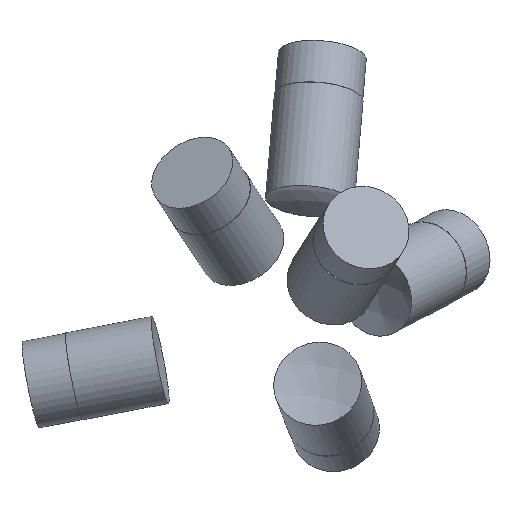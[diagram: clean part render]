
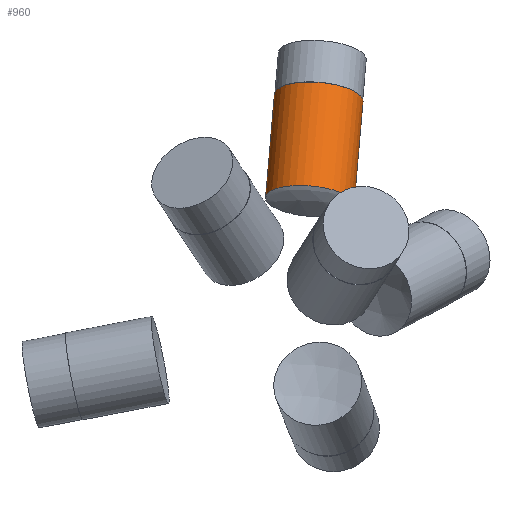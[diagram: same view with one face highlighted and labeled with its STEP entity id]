
A CAD part, isometric view. The second image highlights one B-rep face of the part: STEP entity #960.
In plain terms, the highlighted cylindrical face has radius 6 mm (diameter 12 mm), a full revolution.
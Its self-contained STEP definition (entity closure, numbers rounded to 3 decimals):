
#33 = SPHERICAL_SURFACE('',#34,20.);
#34 = AXIS2_PLACEMENT_3D('',#35,#36,#37);
#35 = CARTESIAN_POINT('',(0.,0.,0.));
#36 = DIRECTION('',(0.,0.,1.));
#37 = DIRECTION('',(1.,0.,-0.));
#459 = EDGE_CURVE('',#460,#460,#462,.T.);
#460 = VERTEX_POINT('',#461);
#461 = CARTESIAN_POINT('',(8.164,9.982,15.288
    ));
#462 = SURFACE_CURVE('',#463,(#468,#537),.PCURVE_S1.);
#463 = CIRCLE('',#464,6.);
#464 = AXIS2_PLACEMENT_3D('',#465,#466,#467);
#465 = CARTESIAN_POINT('',(12.151,9.982,
    10.804));
#466 = DIRECTION('',(0.637,0.523,0.566));
#467 = DIRECTION('',(-0.664,0.,0.747)
  );
#468 = PCURVE('',#33,#469);
#469 = DEFINITIONAL_REPRESENTATION('',(#470),#536);
#470 = B_SPLINE_CURVE_WITH_KNOTS('',8,(#471,#472,#473,#474,#475,#476,
    #477,#478,#479,#480,#481,#482,#483,#484,#485,#486,#487,#488,#489,
    #490,#491,#492,#493,#494,#495,#496,#497,#498,#499,#500,#501,#502,
    #503,#504,#505,#506,#507,#508,#509,#510,#511,#512,#513,#514,#515,
    #516,#517,#518,#519,#520,#521,#522,#523,#524,#525,#526,#527,#528,
    #529,#530,#531,#532,#533,#534,#535),.UNSPECIFIED.,.F.,.F.,(9,7,7,7,7
    ,7,7,7,7,9),(0.,0.393,0.761,1.451,
    2.055,3.112,3.905,5.094,
    5.689,6.283),.UNSPECIFIED.);
#471 = CARTESIAN_POINT('',(0.885,0.87));
#472 = CARTESIAN_POINT('',(0.866,0.878));
#473 = CARTESIAN_POINT('',(0.846,0.885));
#474 = CARTESIAN_POINT('',(0.824,0.891));
#475 = CARTESIAN_POINT('',(0.802,0.896));
#476 = CARTESIAN_POINT('',(0.779,0.9));
#477 = CARTESIAN_POINT('',(0.756,0.904));
#478 = CARTESIAN_POINT('',(0.732,0.905));
#479 = CARTESIAN_POINT('',(0.686,0.907));
#480 = CARTESIAN_POINT('',(0.664,0.907));
#481 = CARTESIAN_POINT('',(0.641,0.906));
#482 = CARTESIAN_POINT('',(0.619,0.904));
#483 = CARTESIAN_POINT('',(0.597,0.901));
#484 = CARTESIAN_POINT('',(0.576,0.897));
#485 = CARTESIAN_POINT('',(0.555,0.892));
#486 = CARTESIAN_POINT('',(0.498,0.875));
#487 = CARTESIAN_POINT('',(0.464,0.861));
#488 = CARTESIAN_POINT('',(0.433,0.845));
#489 = CARTESIAN_POINT('',(0.406,0.826));
#490 = CARTESIAN_POINT('',(0.383,0.805));
#491 = CARTESIAN_POINT('',(0.364,0.783));
#492 = CARTESIAN_POINT('',(0.348,0.759));
#493 = CARTESIAN_POINT('',(0.327,0.714));
#494 = CARTESIAN_POINT('',(0.32,0.691));
#495 = CARTESIAN_POINT('',(0.315,0.669));
#496 = CARTESIAN_POINT('',(0.313,0.646));
#497 = CARTESIAN_POINT('',(0.313,0.623));
#498 = CARTESIAN_POINT('',(0.316,0.601));
#499 = CARTESIAN_POINT('',(0.321,0.578));
#500 = CARTESIAN_POINT('',(0.339,0.518));
#501 = CARTESIAN_POINT('',(0.356,0.481));
#502 = CARTESIAN_POINT('',(0.378,0.446));
#503 = CARTESIAN_POINT('',(0.405,0.414));
#504 = CARTESIAN_POINT('',(0.436,0.385));
#505 = CARTESIAN_POINT('',(0.47,0.361));
#506 = CARTESIAN_POINT('',(0.507,0.34));
#507 = CARTESIAN_POINT('',(0.574,0.313));
#508 = CARTESIAN_POINT('',(0.604,0.304));
#509 = CARTESIAN_POINT('',(0.635,0.298));
#510 = CARTESIAN_POINT('',(0.666,0.295));
#511 = CARTESIAN_POINT('',(0.697,0.295));
#512 = CARTESIAN_POINT('',(0.729,0.297));
#513 = CARTESIAN_POINT('',(0.759,0.303));
#514 = CARTESIAN_POINT('',(0.834,0.324));
#515 = CARTESIAN_POINT('',(0.878,0.342));
#516 = CARTESIAN_POINT('',(0.918,0.367));
#517 = CARTESIAN_POINT('',(0.955,0.397));
#518 = CARTESIAN_POINT('',(0.987,0.432));
#519 = CARTESIAN_POINT('',(1.014,0.47));
#520 = CARTESIAN_POINT('',(1.035,0.512));
#521 = CARTESIAN_POINT('',(1.054,0.577));
#522 = CARTESIAN_POINT('',(1.059,0.599));
#523 = CARTESIAN_POINT('',(1.062,0.621));
#524 = CARTESIAN_POINT('',(1.062,0.643));
#525 = CARTESIAN_POINT('',(1.061,0.666));
#526 = CARTESIAN_POINT('',(1.057,0.688));
#527 = CARTESIAN_POINT('',(1.05,0.71));
#528 = CARTESIAN_POINT('',(1.031,0.752));
#529 = CARTESIAN_POINT('',(1.019,0.773));
#530 = CARTESIAN_POINT('',(1.004,0.792));
#531 = CARTESIAN_POINT('',(0.986,0.811));
#532 = CARTESIAN_POINT('',(0.965,0.828));
#533 = CARTESIAN_POINT('',(0.941,0.844));
#534 = CARTESIAN_POINT('',(0.914,0.858));
#535 = CARTESIAN_POINT('',(0.885,0.87));
#536 = ( GEOMETRIC_REPRESENTATION_CONTEXT(2) 
PARAMETRIC_REPRESENTATION_CONTEXT() REPRESENTATION_CONTEXT('2D SPACE',''
  ) );
#537 = PCURVE('',#538,#543);
#538 = CYLINDRICAL_SURFACE('',#539,6.);
#539 = AXIS2_PLACEMENT_3D('',#540,#541,#542);
#540 = CARTESIAN_POINT('',(0.,0.,0.));
#541 = DIRECTION('',(0.637,0.523,0.566));
#542 = DIRECTION('',(-0.664,0.,0.747)
  );
#543 = DEFINITIONAL_REPRESENTATION('',(#544),#548);
#544 = LINE('',#545,#546);
#545 = CARTESIAN_POINT('',(0.,19.079));
#546 = VECTOR('',#547,1.);
#547 = DIRECTION('',(1.,0.));
#548 = ( GEOMETRIC_REPRESENTATION_CONTEXT(2) 
PARAMETRIC_REPRESENTATION_CONTEXT() REPRESENTATION_CONTEXT('2D SPACE',''
  ) );
#960 = ADVANCED_FACE('',(#961),#538,.T.);
#961 = FACE_BOUND('',#962,.T.);
#962 = EDGE_LOOP('',(#963,#986,#1013,#1014));
#963 = ORIENTED_EDGE('',*,*,#964,.T.);
#964 = EDGE_CURVE('',#460,#965,#967,.T.);
#965 = VERTEX_POINT('',#966);
#966 = CARTESIAN_POINT('',(17.686,17.804,
    23.755));
#967 = SEAM_CURVE('',#968,(#972,#979),.PCURVE_S1.);
#968 = LINE('',#969,#970);
#969 = CARTESIAN_POINT('',(-3.987,0.,
    4.484));
#970 = VECTOR('',#971,1.);
#971 = DIRECTION('',(0.637,0.523,0.566));
#972 = PCURVE('',#538,#973);
#973 = DEFINITIONAL_REPRESENTATION('',(#974),#978);
#974 = LINE('',#975,#976);
#975 = CARTESIAN_POINT('',(6.283,-0.));
#976 = VECTOR('',#977,1.);
#977 = DIRECTION('',(0.,1.));
#978 = ( GEOMETRIC_REPRESENTATION_CONTEXT(2) 
PARAMETRIC_REPRESENTATION_CONTEXT() REPRESENTATION_CONTEXT('2D SPACE',''
  ) );
#979 = PCURVE('',#538,#980);
#980 = DEFINITIONAL_REPRESENTATION('',(#981),#985);
#981 = LINE('',#982,#983);
#982 = CARTESIAN_POINT('',(0.,-0.));
#983 = VECTOR('',#984,1.);
#984 = DIRECTION('',(0.,1.));
#985 = ( GEOMETRIC_REPRESENTATION_CONTEXT(2) 
PARAMETRIC_REPRESENTATION_CONTEXT() REPRESENTATION_CONTEXT('2D SPACE',''
  ) );
#986 = ORIENTED_EDGE('',*,*,#987,.F.);
#987 = EDGE_CURVE('',#965,#965,#988,.T.);
#988 = SURFACE_CURVE('',#989,(#994,#1001),.PCURVE_S1.);
#989 = CIRCLE('',#990,6.);
#990 = AXIS2_PLACEMENT_3D('',#991,#992,#993);
#991 = CARTESIAN_POINT('',(21.673,17.804,
    19.271));
#992 = DIRECTION('',(0.637,0.523,0.566));
#993 = DIRECTION('',(-0.664,0.,0.747)
  );
#994 = PCURVE('',#538,#995);
#995 = DEFINITIONAL_REPRESENTATION('',(#996),#1000);
#996 = LINE('',#997,#998);
#997 = CARTESIAN_POINT('',(0.,34.031));
#998 = VECTOR('',#999,1.);
#999 = DIRECTION('',(1.,0.));
#1000 = ( GEOMETRIC_REPRESENTATION_CONTEXT(2) 
PARAMETRIC_REPRESENTATION_CONTEXT() REPRESENTATION_CONTEXT('2D SPACE',''
  ) );
#1001 = PCURVE('',#1002,#1007);
#1002 = PLANE('',#1003);
#1003 = AXIS2_PLACEMENT_3D('',#1004,#1005,#1006);
#1004 = CARTESIAN_POINT('',(21.673,17.804,
    19.271));
#1005 = DIRECTION('',(0.637,0.523,0.566));
#1006 = DIRECTION('',(-0.664,0.,0.747
    ));
#1007 = DEFINITIONAL_REPRESENTATION('',(#1008),#1012);
#1008 = CIRCLE('',#1009,6.);
#1009 = AXIS2_PLACEMENT_2D('',#1010,#1011);
#1010 = CARTESIAN_POINT('',(0.,0.));
#1011 = DIRECTION('',(1.,0.));
#1012 = ( GEOMETRIC_REPRESENTATION_CONTEXT(2) 
PARAMETRIC_REPRESENTATION_CONTEXT() REPRESENTATION_CONTEXT('2D SPACE',''
  ) );
#1013 = ORIENTED_EDGE('',*,*,#964,.F.);
#1014 = ORIENTED_EDGE('',*,*,#459,.T.);
